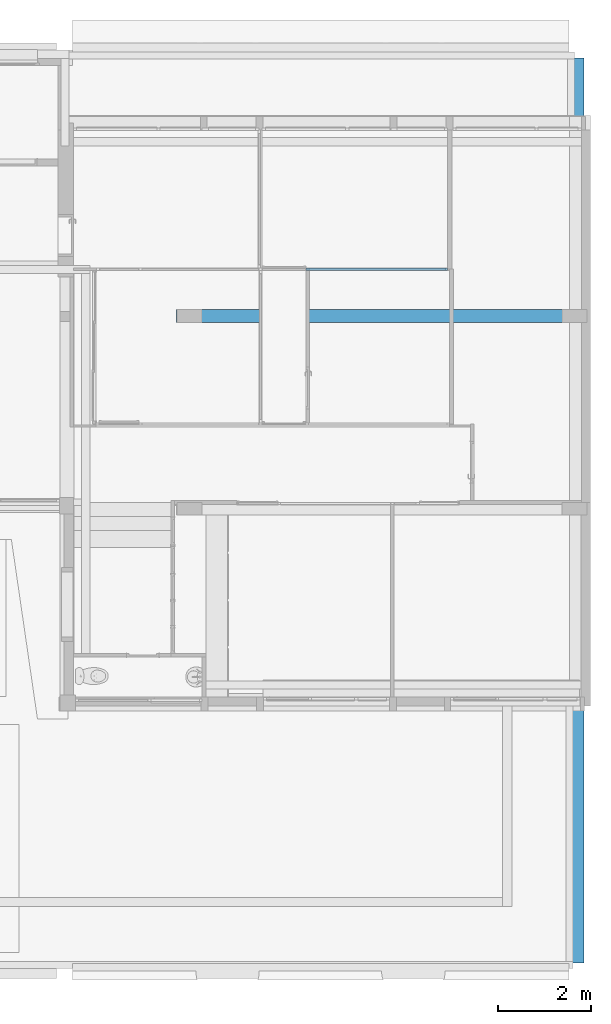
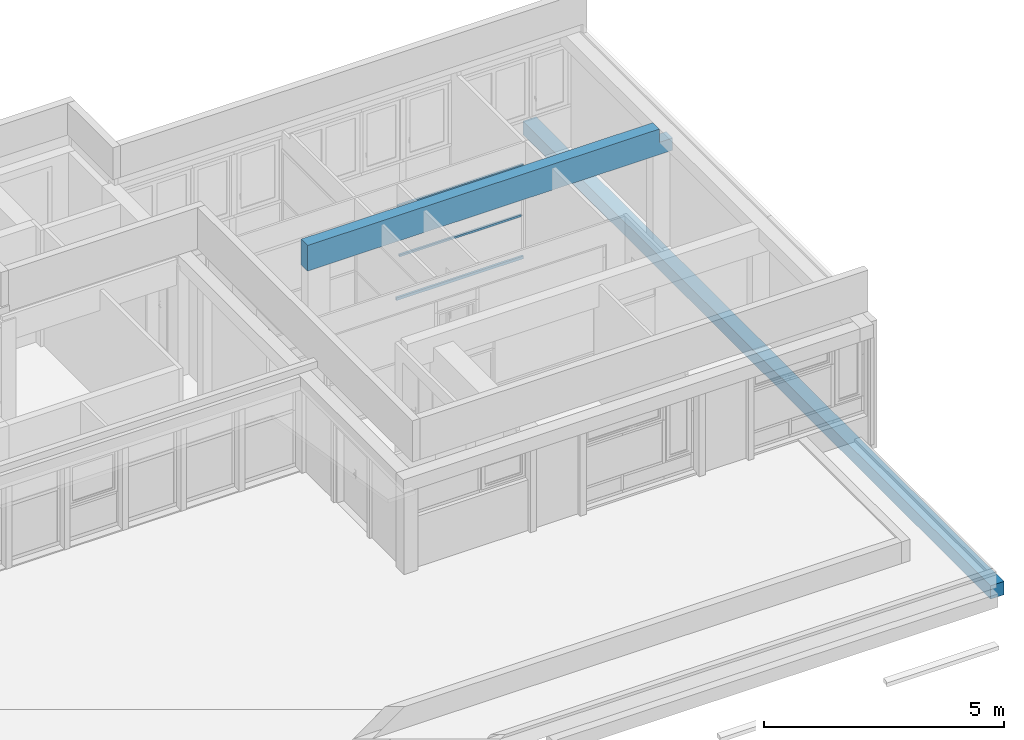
# One storey, part 12 of 49: 3 members, 2 beams, 1 element without a shape of its own.
"""IFC4 building model written with IfcOpenShell, lengths in metres."""

from ifc_helpers import new_model, entity, si_unit, converted_unit, derived_unit, direction, frame, origin, place, context, subcontext, project, spatial, indexed_curve, outline, extrude, source, transform, mapped, material, type_object, type_shapes, element, aggregate, save


model = new_model("IFC4")

# Units and contexts
model_context = context("Model", 3, precision=1e-05, world=origin(), true_north=direction((6.12303176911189e-17, 1.0)))
body_context = subcontext(model_context, "Body", "Model", "MODEL_VIEW")
ifc_project = project(units=[si_unit("LENGTHUNIT", "METRE"), si_unit("AREAUNIT", "SQUARE_METRE"), si_unit("VOLUMEUNIT", "CUBIC_METRE"), converted_unit("PLANEANGLEUNIT", "DEGREE", entity("IfcRatioMeasure", 0.0174532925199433), si_unit("PLANEANGLEUNIT", "RADIAN"), dimensions=[0, 0, 0, 0, 0, 0, 0]), si_unit("MASSUNIT", "GRAM", prefix="KILO"), derived_unit("MASSDENSITYUNIT", [(si_unit("MASSUNIT", "GRAM", prefix="KILO"), 1), (si_unit("LENGTHUNIT", "METRE"), -3)]), derived_unit("MOMENTOFINERTIAUNIT", [(si_unit("LENGTHUNIT", "METRE"), 4)]), si_unit("TIMEUNIT", "SECOND"), si_unit("FREQUENCYUNIT", "HERTZ"), si_unit("THERMODYNAMICTEMPERATUREUNIT", "DEGREE_CELSIUS"), derived_unit("THERMALTRANSMITTANCEUNIT", [(si_unit("MASSUNIT", "GRAM", prefix="KILO"), 1), (si_unit("THERMODYNAMICTEMPERATUREUNIT", "KELVIN"), -1), (si_unit("TIMEUNIT", "SECOND"), -3)]), derived_unit("VOLUMETRICFLOWRATEUNIT", [(si_unit("LENGTHUNIT", "METRE"), 3), (si_unit("TIMEUNIT", "SECOND"), -1)]), si_unit("ELECTRICCURRENTUNIT", "AMPERE"), si_unit("ELECTRICVOLTAGEUNIT", "VOLT"), si_unit("POWERUNIT", "WATT"), si_unit("FORCEUNIT", "NEWTON", prefix="KILO"), si_unit("ILLUMINANCEUNIT", "LUX"), si_unit("LUMINOUSFLUXUNIT", "LUMEN"), si_unit("LUMINOUSINTENSITYUNIT", "CANDELA"), derived_unit("USERDEFINED", [(si_unit("MASSUNIT", "GRAM", prefix="KILO"), -1), (si_unit("LENGTHUNIT", "METRE"), -2), (si_unit("TIMEUNIT", "SECOND"), 3), (si_unit("LUMINOUSFLUXUNIT", "LUMEN"), 1)]), derived_unit("LINEARVELOCITYUNIT", [(si_unit("LENGTHUNIT", "METRE"), 1), (si_unit("TIMEUNIT", "SECOND"), -1)]), si_unit("PRESSUREUNIT", "PASCAL"), derived_unit("USERDEFINED", [(si_unit("LENGTHUNIT", "METRE"), -2), (si_unit("MASSUNIT", "GRAM", prefix="KILO"), 1), (si_unit("TIMEUNIT", "SECOND"), -2)]), derived_unit("LINEARFORCEUNIT", [(si_unit("MASSUNIT", "GRAM", prefix="KILO"), 1), (si_unit("LENGTHUNIT", "METRE"), 1), (si_unit("TIMEUNIT", "SECOND"), -2), (si_unit("LENGTHUNIT", "METRE"), -1)]), derived_unit("PLANARFORCEUNIT", [(si_unit("MASSUNIT", "GRAM", prefix="KILO"), 1), (si_unit("LENGTHUNIT", "METRE"), 1), (si_unit("TIMEUNIT", "SECOND"), -2), (si_unit("LENGTHUNIT", "METRE"), -2)])], contexts=[model_context])

# Site, building, storey
site_placement = place(None, origin())
site = spatial("IfcSite", under=ifc_project, at=site_placement, Name="Default", CompositionType="ELEMENT")
building_placement = place(site_placement, origin())
building = spatial("IfcBuilding", under=site, at=building_placement, Name="HOTEL CONSULAIRE BOULOGNE SUR MER", CompositionType="ELEMENT")
storey_placement = place(building_placement, frame((0.0, 0.0, 6.81974152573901)))
storey = spatial("IfcBuildingStorey", under=building, at=storey_placement, Name="Niveau 2", CompositionType="ELEMENT", Elevation=6.81974152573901)

# Beams
ifc_material_1 = material(Name="Béton - Béton coulé sur place", Category="Béton")
beam_type_1 = type_object("IfcBeamType", Name="Poutre rectangulaire - Béton:320x340", PredefinedType="BEAM", material=ifc_material_1)
shared_shape_1 = source(origin(), body_context, "Body", "SweptSolid", [
    extrude(outline(indexed_curve([(-0.159999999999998, -0.17), (0.160000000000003, -0.17), (0.160000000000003, 0.169999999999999), (-0.159999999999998, 0.169999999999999), (-0.159999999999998, -0.17)], self_intersect=False)), frame((22.4986382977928, -29.5540671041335, 6.46174152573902), z_axis=(0.0, 1.0, 0.0), x_axis=(-1.0, 0.0, 0.0)), (0.0, 0.0, 1.0), 19.4694347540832),
])
type_shapes(beam_type_1, [shared_shape_1])
beam_1_placement = place(storey_placement, frame((0.0, 0.0, -6.81974152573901)))
element("IfcBeam", 1, at=beam_1_placement, inside=storey, type_object=beam_type_1, material=ifc_material_1, Name="Poutre rectangulaire - Béton:320x340", ObjectType="Poutre rectangulaire - Béton:320x340", PredefinedType="BEAM", context=body_context, shape_type="MappedRepresentation", body=[
    mapped(shared_shape_1, transform((0.0, 0.0, 0.0), scale=1.0)),
])
beam_type_2 = type_object("IfcBeamType", Name="Poutre rectangulaire - Béton:270x650", PredefinedType="BEAM", material=ifc_material_1)
shared_shape_2 = source(origin(), body_context, "Body", "SweptSolid", [
    extrude(outline(indexed_curve([(-4.52978107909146, -0.464444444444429), (3.91913153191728, -0.464444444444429), (3.91913153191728, -0.369444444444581), (3.91913153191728, -0.12444444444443), (4.17842920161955, -0.12444444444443), (4.23913153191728, -0.12444444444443), (4.23913153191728, 0.18555555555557), (3.76642920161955, 0.18555555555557), (1.43256909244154, 0.18555555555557), (1.34256909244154, 0.18555555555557), (-1.67243090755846, 0.18555555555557), (-1.74243090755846, 0.18555555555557), (-2.68843090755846, 0.18555555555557), (-2.75843090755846, 0.18555555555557), (-3.9872936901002, 0.18555555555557), (-4.51729369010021, 0.18555555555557), (-4.52978107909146, 0.18555555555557), (-4.52978107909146, -0.369444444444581), (-4.52978107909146, -0.464444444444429)], self_intersect=False)), frame((4.52978107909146, 0.0, 0.18555555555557), z_axis=(0.0, 1.0, 0.0), x_axis=(1.0, 0.0, 0.0)), (0.0, 0.0, 1.0), 0.270000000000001),
])
type_shapes(beam_type_2, [shared_shape_2])
beam_2_placement = place(storey_placement, frame((13.889725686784, -15.767909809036, 2.402)))
element("IfcBeam", 2, at=beam_2_placement, inside=storey, type_object=beam_type_2, material=ifc_material_1, Name="Poutre rectangulaire - Béton:270x650", ObjectType="Poutre rectangulaire - Béton:270x650", PredefinedType="BEAM", context=body_context, shape_type="MappedRepresentation", body=[
    mapped(shared_shape_2, transform((0.0, 0.0, 0.0), scale=1.0)),
])

# Curtain wall, members
curtain_wall_type = type_object("IfcCurtainWallType", Name="Mur-rideau:Simple panneau", PredefinedType="NOTDEFINED")
curtain_wall_placement = place(storey_placement, frame((0.0, 0.0, -6.81974152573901)))
curtain_wall = element("IfcCurtainWall", 3, at=curtain_wall_placement, inside=storey, type_object=curtain_wall_type, Name="Mur-rideau:Simple panneau", ObjectType="Mur-rideau:Simple panneau", PredefinedType="NOTDEFINED")
ifc_material_2 = material(Name="PVC - Blanc", Category="Plastique")
member_type_1 = type_object("IfcMemberType", Name="Meneau rectangulaire:50 x 35", PredefinedType="MULLION", material=ifc_material_2)
shared_shape_3 = source(origin(), body_context, "Body", "SweptSolid", [
    extrude(outline(indexed_curve([(-0.025, -0.035), (0.025, -0.035), (0.025, 0.035), (-0.025, 0.035), (-0.025, -0.035)], self_intersect=False)), frame((-0.035, -0.025, -3.04974565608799), z_axis=(0.0, 0.0, 1.0), x_axis=(0.0, -1.0, 0.0)), (0.0, 0.0, 1.0), 3.04974565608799),
])
type_shapes(member_type_1, [shared_shape_3])
member_1_placement = place(storey_placement, frame((19.722821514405, -14.6024237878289, 0.0), z_axis=(1.0, 0.0, 0.0), x_axis=(0.0, 0.0, -1.0)))
member_1 = element("IfcMember", 4, at=member_1_placement, type_object=member_type_1, material=ifc_material_2, Name="Meneau rectangulaire:50 x 35", ObjectType="Meneau rectangulaire:50 x 35", PredefinedType="MULLION", context=body_context, shape_type="MappedRepresentation", body=[
    mapped(shared_shape_3, transform((0.0, 0.0, 0.0), scale=1.0)),
])
member_type_2 = type_object("IfcMemberType", Name="Meneau rectangulaire:50 x 35", PredefinedType="MULLION", material=ifc_material_2)
shared_shape_4 = source(origin(), body_context, "Body", "SweptSolid", [
    extrude(outline(indexed_curve([(-0.025, -0.035), (0.025, -0.035), (0.025, 0.035), (-0.025, 0.035), (-0.025, -0.035)], self_intersect=False)), frame((-0.035, -0.025, -3.01474565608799), z_axis=(0.0, 0.0, 1.0), x_axis=(0.0, -1.0, 0.0)), (0.0, 0.0, 1.0), 3.01474565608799),
])
type_shapes(member_type_2, [shared_shape_4])
member_2_placement = place(storey_placement, frame((16.708075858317, -14.6024237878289, 2.402), z_axis=(-1.0, 0.0, 0.0), x_axis=(0.0, 0.0, 1.0)))
member_2 = element("IfcMember", 5, at=member_2_placement, type_object=member_type_2, material=ifc_material_2, Name="Meneau rectangulaire:50 x 35", ObjectType="Meneau rectangulaire:50 x 35", PredefinedType="MULLION", context=body_context, shape_type="MappedRepresentation", body=[
    mapped(shared_shape_4, transform((0.0, 0.0, 0.0), scale=1.0)),
])
member_type_3 = type_object("IfcMemberType", Name="Meneau rectangulaire:50 x 25mm", PredefinedType="MULLION", material=ifc_material_2)
shared_shape_5 = source(origin(), body_context, "Body", "SweptSolid", [
    extrude(outline(indexed_curve([(-0.025, -0.025), (0.025, -0.025), (0.025, 0.025), (-0.025, 0.025), (-0.025, -0.025)], self_intersect=False)), frame((0.0, -0.025, -2.92974565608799), z_axis=(0.0, 0.0, 1.0), x_axis=(0.0, -1.0, 0.0)), (0.0, 0.0, 1.0), 2.92974565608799),
])
type_shapes(member_type_3, [shared_shape_5])
member_3_placement = place(storey_placement, frame((16.743075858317, -14.6024237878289, 1.111), z_axis=(-1.0, 0.0, 0.0), x_axis=(0.0, 0.0, 1.0)))
member_3 = element("IfcMember", 6, at=member_3_placement, type_object=member_type_3, material=ifc_material_2, Name="Meneau rectangulaire:50 x 25mm", ObjectType="Meneau rectangulaire:50 x 25mm", PredefinedType="MULLION", context=body_context, shape_type="MappedRepresentation", body=[
    mapped(shared_shape_5, transform((0.0, 0.0, 0.0), scale=1.0)),
])
aggregate(curtain_wall, [member_1, member_2, member_3])

save(model, "model.ifc")
